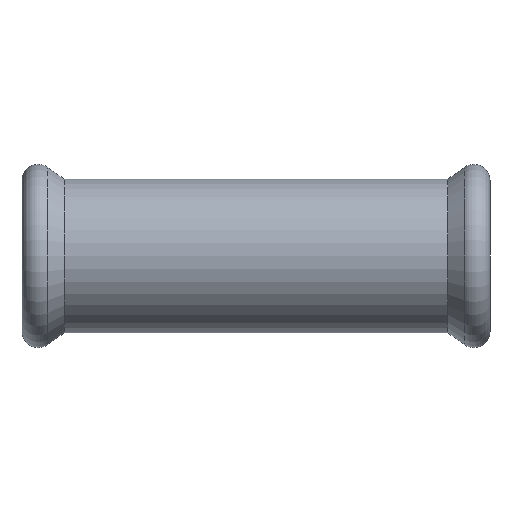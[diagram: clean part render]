
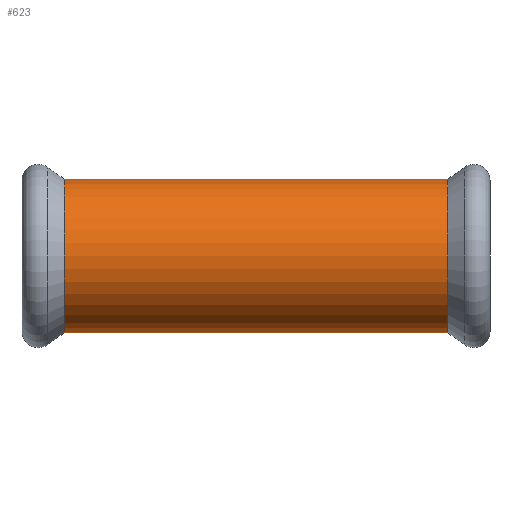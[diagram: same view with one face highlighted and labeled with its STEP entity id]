
A CAD part, front view. The second image highlights one B-rep face of the part: STEP entity #623.
In plain terms, the highlighted cylindrical face has radius 15.6 mm (diameter 31.2 mm), a partial arc.
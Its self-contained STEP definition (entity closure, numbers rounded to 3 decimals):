
#9 = CYLINDRICAL_SURFACE ( 'NONE', #275, 15.6 ) ;
#24 = CARTESIAN_POINT ( 'NONE',  ( -84.842, 0., 0. ) ) ;
#53 = ORIENTED_EDGE ( 'NONE', *, *, #1205, .T. ) ;
#68 = CIRCLE ( 'NONE', #1043, 15.6 ) ;
#81 = CARTESIAN_POINT ( 'NONE',  ( -38.95, 0., -15.6 ) ) ;
#85 = EDGE_CURVE ( 'NONE', #696, #197, #760, .T. ) ;
#193 = DIRECTION ( 'NONE',  ( -1., 0., 0. ) ) ;
#197 = VERTEX_POINT ( 'NONE', #739 ) ;
#275 = AXIS2_PLACEMENT_3D ( 'NONE', #24, #707, #400 ) ;
#278 = DIRECTION ( 'NONE',  ( 0., 0., 1. ) ) ;
#331 = ORIENTED_EDGE ( 'NONE', *, *, #85, .T. ) ;
#371 = DIRECTION ( 'NONE',  ( -1., 0., 0. ) ) ;
#397 = EDGE_CURVE ( 'NONE', #696, #1135, #784, .T. ) ;
#400 = DIRECTION ( 'NONE',  ( 0., 0., 1. ) ) ;
#417 = EDGE_CURVE ( 'NONE', #1135, #439, #68, .T. ) ;
#439 = VERTEX_POINT ( 'NONE', #968 ) ;
#476 = DIRECTION ( 'NONE',  ( -1., 0., 0. ) ) ;
#570 = VECTOR ( 'NONE', #1065, 1000. ) ;
#623 = ADVANCED_FACE ( 'NONE', ( #894 ), #9, .T. ) ;
#696 = VERTEX_POINT ( 'NONE', #1193 ) ;
#707 = DIRECTION ( 'NONE',  ( -1., 0., 0. ) ) ;
#739 = CARTESIAN_POINT ( 'NONE',  ( 38.95, 0., 15.6 ) ) ;
#757 = AXIS2_PLACEMENT_3D ( 'NONE', #863, #371, #966 ) ;
#758 = ORIENTED_EDGE ( 'NONE', *, *, #397, .F. ) ;
#760 = CIRCLE ( 'NONE', #757, 15.6 ) ;
#784 = LINE ( 'NONE', #1158, #570 ) ;
#836 = CARTESIAN_POINT ( 'NONE',  ( -84.842, 0., 15.6 ) ) ;
#863 = CARTESIAN_POINT ( 'NONE',  ( 38.95, 0., 0. ) ) ;
#894 = FACE_OUTER_BOUND ( 'NONE', #1078, .T. ) ;
#930 = ORIENTED_EDGE ( 'NONE', *, *, #417, .F. ) ;
#966 = DIRECTION ( 'NONE',  ( 0., 0., 1. ) ) ;
#968 = CARTESIAN_POINT ( 'NONE',  ( -38.95, 0., 15.6 ) ) ;
#1043 = AXIS2_PLACEMENT_3D ( 'NONE', #1236, #476, #278 ) ;
#1061 = LINE ( 'NONE', #836, #1240 ) ;
#1065 = DIRECTION ( 'NONE',  ( -1., 0., 0. ) ) ;
#1078 = EDGE_LOOP ( 'NONE', ( #758, #331, #53, #930 ) ) ;
#1135 = VERTEX_POINT ( 'NONE', #81 ) ;
#1158 = CARTESIAN_POINT ( 'NONE',  ( -84.842, 0., -15.6 ) ) ;
#1193 = CARTESIAN_POINT ( 'NONE',  ( 38.95, 0., -15.6 ) ) ;
#1205 = EDGE_CURVE ( 'NONE', #197, #439, #1061, .T. ) ;
#1236 = CARTESIAN_POINT ( 'NONE',  ( -38.95, 0., 0. ) ) ;
#1240 = VECTOR ( 'NONE', #193, 1000. ) ;
